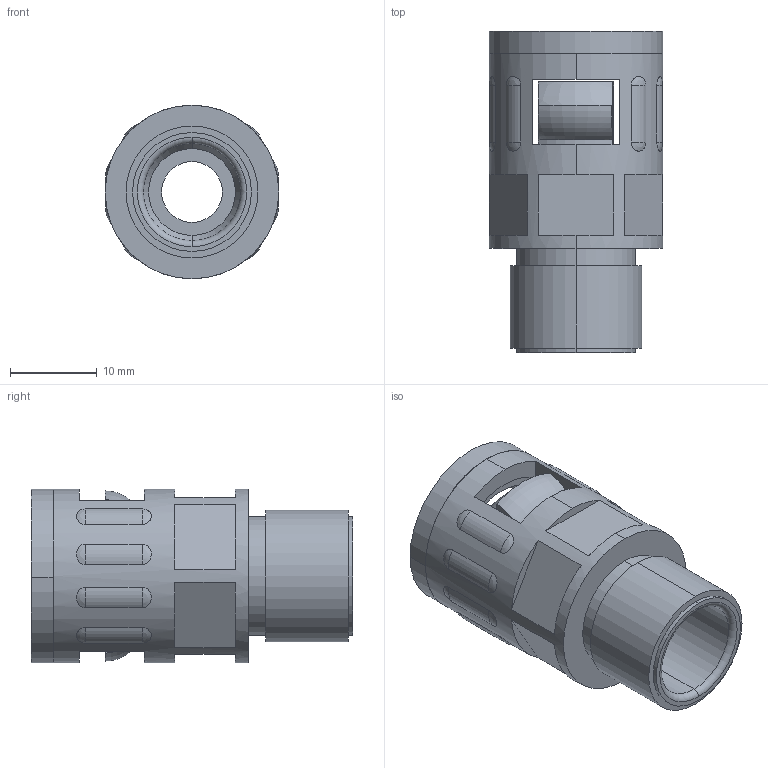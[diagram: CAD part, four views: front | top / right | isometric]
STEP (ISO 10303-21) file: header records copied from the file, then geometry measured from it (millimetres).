
FILE_DESCRIPTION (( 'STEP AP203' ), '1' );
FILE_NAME ('WQG-P09-AD13.0.STEP', '2020-03-12T01:10:18', ( '' ), ( '' ), 'SwSTEP 2.0', 'SolidWorks 2016', '' );
FILE_SCHEMA (( 'CONFIG_CONTROL_DESIGN' ));
Length unit declared in the file: millimetre
Products named in the file (4): GFD-AD13.0; NSK-AD13.0; WQG-P09-AD13.0-01; WQG-P09-AD13.0
Assembly tree (3 placements, depth 2):
  WQG-P09-AD13.0
    WQG-P09-AD13.0-01
    GFD-AD13.0
    NSK-AD13.0
Bounding box: 20 x 37 x 20 mm (x, y, z)
Volume: 3816.8 mm3; surface area: 6879.1 mm2
Topology: 2 solids, 5 shells, 189 faces, 491 edges, 308 vertices
Faces by surface type: plane 60, cone 59, cylinder 34, torus 20, sphere 16
Entity records: 6457 total; most frequent: CARTESIAN_POINT 1527, DIRECTION 1003, ORIENTED_EDGE 910, EDGE_CURVE 459, AXIS2_PLACEMENT_3D 416, VERTEX_POINT 292, CIRCLE 220, EDGE_LOOP 217
